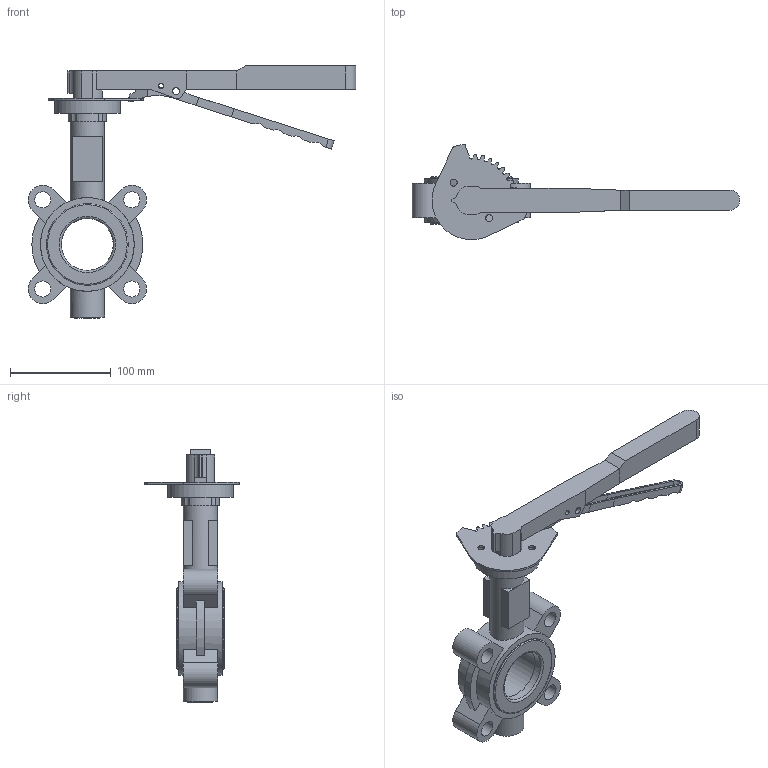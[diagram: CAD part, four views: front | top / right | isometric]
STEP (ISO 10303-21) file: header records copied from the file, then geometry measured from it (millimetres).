
FILE_DESCRIPTION (( 'STEP AP203' ), '1' );
FILE_NAME ('2502 LT型中线衬胶带销 手柄蝶阀 DN50 PN25 CD0309068.STEP', '2026-04-13T01:01:34', ( '' ), ( '' ), 'SwSTEP 2.0', 'SolidWorks 2018', '' );
FILE_SCHEMA (( 'CONFIG_CONTROL_DESIGN' ));
Length unit declared in the file: millimetre
Products named in the file (8): 新型玛钢手柄主手柄(长)-DN50-DN80-立方9-9004; 2026.3.6 GALA-D50-01LC25-00; 新型玛钢手柄副手柄(长)-DN50-DN80-9004; GALA-D50-04AZC-00 概极傍蝶; YH-D50-80-06Y-01 DN40-DN80 喘攫; 2502 LT型中线衬胶带销 手柄蝶阀 DN50 PN25 CD0309068; 新型玛钢手柄装配体-DN50-DN80-立方11-9004; DIN908 塞堵M20×1.5
Assembly tree (7 placements, depth 3):
  2502 LT型中线衬胶带销 手柄蝶阀 DN50 PN25 CD0309068
    2026.3.6 GALA-D50-01LC25-00
    GALA-D50-04AZC-00 概极傍蝶
    DIN908 塞堵M20×1.5
    YH-D50-80-06Y-01 DN40-DN80 喘攫
    新型玛钢手柄装配体-DN50-DN80-立方11-9004
      新型玛钢手柄副手柄(长)-DN50-DN80-9004
      新型玛钢手柄主手柄(长)-DN50-DN80-立方9-9004
Bounding box: 324.81 x 94.53 x 250 mm (x, y, z)
Volume: 542173 mm3; surface area: 157874.6 mm2
Topology: 6 solids, 6 shells, 281 faces, 752 edges, 492 vertices
Faces by surface type: plane 138, cylinder 129, torus 8, cone 6
Full cylindrical faces by diameter (mm): 5 x4, 7 x10, 16 x4, 20 x1, 25 x2, 27 x1, 34 x2, 51.362 x1, 61 x2, 65 x1, 81 x4, 93 x1
Entity records: 9653 total; most frequent: CARTESIAN_POINT 1708, DIRECTION 1547, ORIENTED_EDGE 1394, EDGE_CURVE 697, AXIS2_PLACEMENT_3D 572, VERTEX_POINT 485, LINE 403, VECTOR 403
